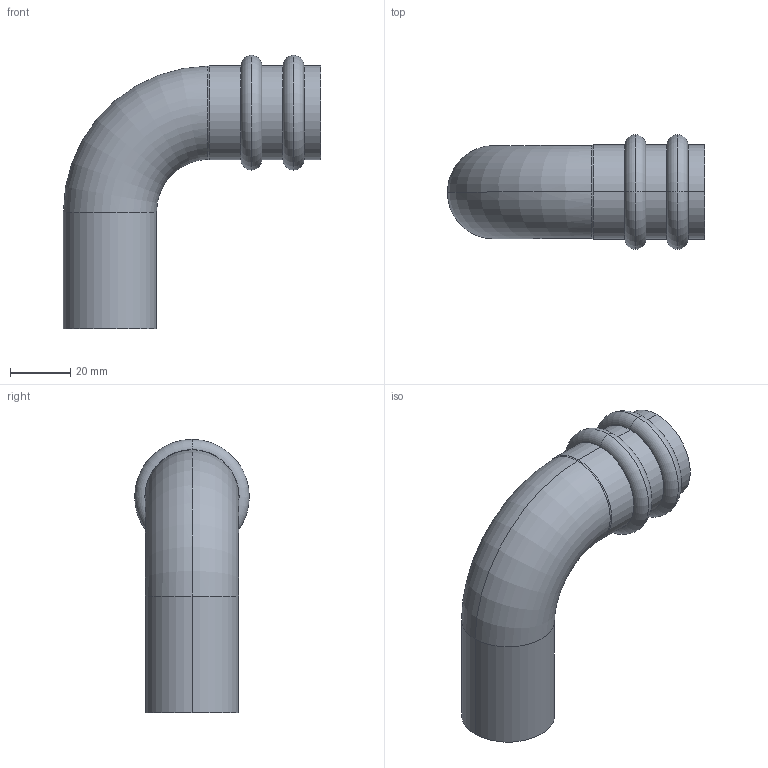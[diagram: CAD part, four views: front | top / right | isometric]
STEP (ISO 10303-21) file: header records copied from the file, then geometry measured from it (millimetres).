
FILE_DESCRIPTION(('starvars output'),'1');
FILE_NAME('cv20240422105033000011636.stp','10:50:34 2024/04/22',('Thomas Industrial Network Germany GmbH'),(' '),'Spatial InterOp 3D',' ',' ');
FILE_SCHEMA(('AUTOMOTIVE_DESIGN { 1 0 10303 214 3 1 1 }'));
Length unit declared in the file: millimetre
Products named in the file (1): 1
Bounding box: 85.47 x 38.1 x 90.8 mm (x, y, z)
Volume: 14473.3 mm3; surface area: 26541.8 mm2
Topology: 1 solids, 1 shells, 52 faces, 109 edges, 68 vertices
Faces by surface type: torus 20, cylinder 16, plane 12, cone 4
Entity records: 2138 total; most frequent: CARTESIAN_POINT 518, DIRECTION 288, ORIENTED_EDGE 218, AXIS2_PLACEMENT_3D 134, EDGE_CURVE 109, CIRCLE 81, VERTEX_POINT 68, EDGE_LOOP 63
